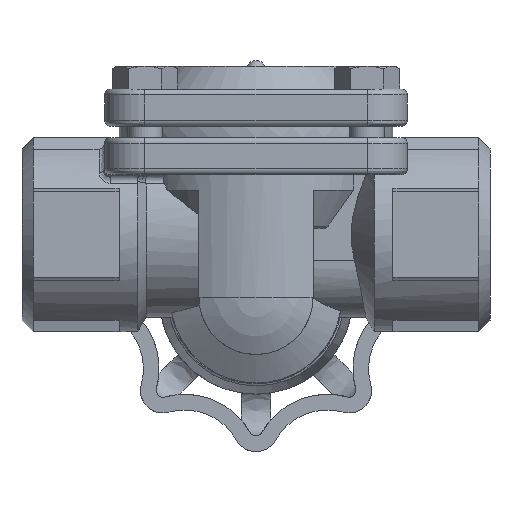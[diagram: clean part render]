
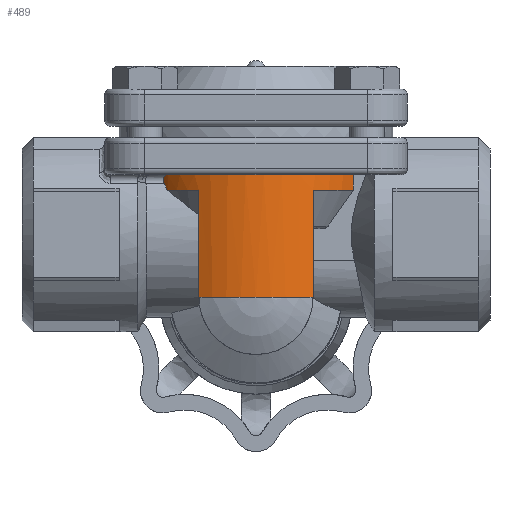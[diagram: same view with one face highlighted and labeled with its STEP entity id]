
A CAD part, front view. The second image highlights one B-rep face of the part: STEP entity #489.
In plain terms, the highlighted cylindrical face has radius 19.75 mm (diameter 39.5 mm), a partial arc.
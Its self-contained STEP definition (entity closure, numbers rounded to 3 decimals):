
#489=ADVANCED_FACE('',(#5233),#5232,.T.);
#5232=CYLINDRICAL_SURFACE('',#14375,19.75);
#5233=FACE_OUTER_BOUND('',#14376,.T.);
#14372=CARTESIAN_POINT('',(0.,0.,3.5));
#14373=DIRECTION('',(0.,0.,-1.));
#14374=DIRECTION('',(1.,0.,0.));
#14375=AXIS2_PLACEMENT_3D('',#14372,#14373,#14374);
#14376=EDGE_LOOP('',(#18397,#18398,#18399,#18400,#18401,#18402,#18403,#18404,#18405,#18406));
#18397=ORIENTED_EDGE('',*,*,#20946,.F.);
#18398=ORIENTED_EDGE('',*,*,#19846,.T.);
#18399=ORIENTED_EDGE('',*,*,#20942,.T.);
#18400=ORIENTED_EDGE('',*,*,#20944,.T.);
#18401=ORIENTED_EDGE('',*,*,#20953,.F.);
#18402=ORIENTED_EDGE('',*,*,#20954,.T.);
#18403=ORIENTED_EDGE('',*,*,#20955,.T.);
#18404=ORIENTED_EDGE('',*,*,#19908,.T.);
#18405=ORIENTED_EDGE('',*,*,#19942,.T.);
#18406=ORIENTED_EDGE('',*,*,#19944,.F.);
#19846=EDGE_CURVE('',#23110,#23111,#23112,.T.);
#19908=EDGE_CURVE('',#23487,#23527,#23534,.T.);
#19942=EDGE_CURVE('',#23527,#23753,#23760,.T.);
#19944=EDGE_CURVE('',#23767,#23753,#23774,.T.);
#20942=EDGE_CURVE('',#23111,#30391,#30398,.T.);
#20944=EDGE_CURVE('',#30391,#30410,#30411,.T.);
#20946=EDGE_CURVE('',#23110,#23767,#30423,.T.);
#20953=EDGE_CURVE('',#23494,#30410,#30470,.T.);
#20954=EDGE_CURVE('',#23494,#30476,#30477,.T.);
#20955=EDGE_CURVE('',#30476,#23487,#30483,.T.);
#23110=VERTEX_POINT('',#34370);
#23111=VERTEX_POINT('',#34371);
#23112=(BOUNDED_CURVE() B_SPLINE_CURVE(3,(#34372,#34373,#34374,#34375,#34376,#34377,#34378,#34379,#34380,#34381,#34382,#34383,#34384,#34385,#34386,#34387),.UNSPECIFIED.,.F.,.F.) B_SPLINE_CURVE_WITH_KNOTS((4,2,2,2,2,2,2,4),(0.,0.,0.001,0.001,0.002,0.002,0.002,0.002),.UNSPECIFIED.) CURVE() GEOMETRIC_REPRESENTATION_ITEM() RATIONAL_B_SPLINE_CURVE((1.,1.,1.,1.,1.,1.,1.,1.,1.,1.,1.,1.,1.,1.,1.,1.)) REPRESENTATION_ITEM('') );
#23487=VERTEX_POINT('',#34813);
#23494=VERTEX_POINT('',#34817);
#23527=VERTEX_POINT('',#34837);
#23534=LINE('',#34842,#34843);
#23753=VERTEX_POINT('',#34973);
#23760=CIRCLE('',#34981,19.75);
#23767=VERTEX_POINT('',#34983);
#23774=LINE('',#34987,#34988);
#30391=VERTEX_POINT('',#41406);
#30398=(BOUNDED_CURVE() B_SPLINE_CURVE(3,(#41413,#41414,#41415,#41416),.UNSPECIFIED.,.F.,.F.) B_SPLINE_CURVE_WITH_KNOTS((4,4),(0.002,0.004),.UNSPECIFIED.) CURVE() GEOMETRIC_REPRESENTATION_ITEM() RATIONAL_B_SPLINE_CURVE((1.,1.,1.,1.)) REPRESENTATION_ITEM('') );
#30410=VERTEX_POINT('',#41423);
#30411=CIRCLE('',#41427,19.75);
#30423=CIRCLE('',#41435,19.75);
#30470=LINE('',#41464,#41465);
#30476=VERTEX_POINT('',#41467);
#30477=CIRCLE('',#41471,19.75);
#30483=CIRCLE('',#41475,19.75);
#34370=CARTESIAN_POINT('',(-15.494,-12.247,14.));
#34371=CARTESIAN_POINT('',(-16.087,-11.457,12.387));
#34372=CARTESIAN_POINT('',(-15.494,-12.247,14.));
#34373=CARTESIAN_POINT('',(-15.558,-12.167,14.));
#34374=CARTESIAN_POINT('',(-15.62,-12.087,13.99));
#34375=CARTESIAN_POINT('',(-15.741,-11.929,13.951));
#34376=CARTESIAN_POINT('',(-15.8,-11.85,13.922));
#34377=CARTESIAN_POINT('',(-15.968,-11.624,13.801));
#34378=CARTESIAN_POINT('',(-16.067,-11.486,13.676));
#34379=CARTESIAN_POINT('',(-16.171,-11.338,13.428));
#34380=CARTESIAN_POINT('',(-16.198,-11.3,13.336));
#34381=CARTESIAN_POINT('',(-16.231,-11.252,13.14));
#34382=CARTESIAN_POINT('',(-16.238,-11.243,13.037));
#34383=CARTESIAN_POINT('',(-16.228,-11.256,12.833));
#34384=CARTESIAN_POINT('',(-16.213,-11.279,12.732));
#34385=CARTESIAN_POINT('',(-16.163,-11.351,12.547));
#34386=CARTESIAN_POINT('',(-16.128,-11.399,12.462));
#34387=CARTESIAN_POINT('',(-16.087,-11.457,12.387));
#34813=CARTESIAN_POINT('',(10.,-17.031,-7.5));
#34817=CARTESIAN_POINT('',(-10.,-17.031,-7.5));
#34837=CARTESIAN_POINT('',(10.,-17.031,11.286));
#34842=CARTESIAN_POINT('',(10.,-17.031,-7.5));
#34843=VECTOR('',#34844,18.786);
#34844=DIRECTION('',(0.,0.,1.));
#34973=CARTESIAN_POINT('',(17.031,-10.,11.286));
#34978=CARTESIAN_POINT('',(0.,0.,11.286));
#34979=DIRECTION('',(0.,0.,1.));
#34980=DIRECTION('',(1.,0.,0.));
#34981=AXIS2_PLACEMENT_3D('',#34978,#34979,#34980);
#34983=CARTESIAN_POINT('',(17.031,-10.,14.));
#34987=CARTESIAN_POINT('',(17.031,-10.,14.));
#34988=VECTOR('',#34989,2.714);
#34989=DIRECTION('',(0.,0.,-1.));
#41406=CARTESIAN_POINT('',(-15.506,-12.232,11.286));
#41413=CARTESIAN_POINT('',(-16.087,-11.457,12.387));
#41414=CARTESIAN_POINT('',(-15.891,-11.732,12.033));
#41415=CARTESIAN_POINT('',(-15.697,-11.99,11.666));
#41416=CARTESIAN_POINT('',(-15.506,-12.232,11.286));
#41423=CARTESIAN_POINT('',(-10.,-17.031,11.286));
#41424=CARTESIAN_POINT('',(0.,0.,11.286));
#41425=DIRECTION('',(0.,0.,1.));
#41426=DIRECTION('',(1.,0.,0.));
#41427=AXIS2_PLACEMENT_3D('',#41424,#41425,#41426);
#41432=CARTESIAN_POINT('',(0.,0.,14.));
#41433=DIRECTION('',(0.,0.,1.));
#41434=DIRECTION('',(1.,0.,0.));
#41435=AXIS2_PLACEMENT_3D('',#41432,#41433,#41434);
#41464=CARTESIAN_POINT('',(-10.,-17.031,-7.5));
#41465=VECTOR('',#41466,18.786);
#41466=DIRECTION('',(0.,0.,1.));
#41467=CARTESIAN_POINT('',(0.,-19.75,-7.5));
#41468=CARTESIAN_POINT('',(0.,0.,-7.5));
#41469=DIRECTION('',(0.,0.,1.));
#41470=DIRECTION('',(1.,0.,0.));
#41471=AXIS2_PLACEMENT_3D('',#41468,#41469,#41470);
#41472=CARTESIAN_POINT('',(0.,0.,-7.5));
#41473=DIRECTION('',(0.,0.,1.));
#41474=DIRECTION('',(1.,0.,0.));
#41475=AXIS2_PLACEMENT_3D('',#41472,#41473,#41474);
